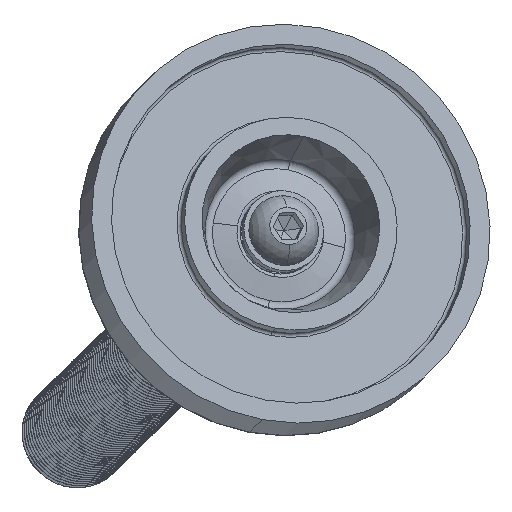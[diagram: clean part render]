
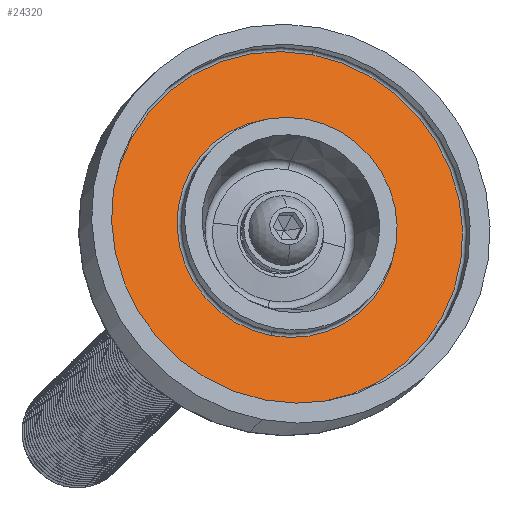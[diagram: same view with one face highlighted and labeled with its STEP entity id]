
A CAD part, front view. The second image highlights one B-rep face of the part: STEP entity #24320.
In plain terms, the highlighted planar face has unit normal (0.206, -0.958, 0.201) as drawn and (-1, 0, 0) by its records, which use the part's own axes.
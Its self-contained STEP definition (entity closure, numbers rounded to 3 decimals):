
#245 = ORIENTED_EDGE ( 'NONE', *, *, #20538, .T. ) ;
#246 = ORIENTED_EDGE ( 'NONE', *, *, #18792, .T. ) ;
#247 = ORIENTED_EDGE ( 'NONE', *, *, #20539, .F. ) ;
#248 = ORIENTED_EDGE ( 'NONE', *, *, #20536, .F. ) ;
#1284 = CIRCLE ( 'NONE', #2151, 16.5 ) ;
#2151 = AXIS2_PLACEMENT_3D ( 'NONE', #3371, #3372, #3373 ) ;
#2959 = AXIS2_PLACEMENT_3D ( 'NONE', #7689, #7690, #7691 ) ;
#2961 = AXIS2_PLACEMENT_3D ( 'NONE', #7695, #7696, #7697 ) ;
#2962 = AXIS2_PLACEMENT_3D ( 'NONE', #7698, #7699, #7700 ) ;
#3371 = CARTESIAN_POINT ( 'NONE',  ( 34.237, 55.379, 0. ) ) ;
#3372 = DIRECTION ( 'NONE',  ( 1., 0., 0. ) ) ;
#3373 = DIRECTION ( 'NONE',  ( 0., 0., -1. ) ) ;
#5594 = CIRCLE ( 'NONE', #2959, 26.5 ) ;
#5596 = CIRCLE ( 'NONE', #2961, 16.5 ) ;
#5599 = CIRCLE ( 'NONE', #2962, 26.5 ) ;
#7689 = CARTESIAN_POINT ( 'NONE',  ( 34.237, 55.379, 0. ) ) ;
#7690 = DIRECTION ( 'NONE',  ( 1., 0., 0. ) ) ;
#7691 = DIRECTION ( 'NONE',  ( 0., 0., -1. ) ) ;
#7695 = CARTESIAN_POINT ( 'NONE',  ( 34.237, 55.379, 0. ) ) ;
#7696 = DIRECTION ( 'NONE',  ( 1., 0., 0. ) ) ;
#7697 = DIRECTION ( 'NONE',  ( 0., 0., -1. ) ) ;
#7698 = CARTESIAN_POINT ( 'NONE',  ( 34.237, 55.379, 0. ) ) ;
#7699 = DIRECTION ( 'NONE',  ( 1., 0., 0. ) ) ;
#7700 = DIRECTION ( 'NONE',  ( 0., 0., -1. ) ) ;
#8755 = AXIS2_PLACEMENT_3D ( 'NONE', #15659, #15670, #15671 ) ;
#9059 = CARTESIAN_POINT ( 'NONE',  ( 34.237, 55.379, -26.5 ) ) ;
#9187 = CARTESIAN_POINT ( 'NONE',  ( 34.237, 55.379, 16.5 ) ) ;
#9307 = CARTESIAN_POINT ( 'NONE',  ( 34.237, 55.379, 26.5 ) ) ;
#9310 = CARTESIAN_POINT ( 'NONE',  ( 34.237, 55.379, -16.5 ) ) ;
#14517 = FACE_OUTER_BOUND ( 'NONE', #17518, .T. ) ;
#14527 = FACE_BOUND ( 'NONE', #17516, .T. ) ;
#15659 = CARTESIAN_POINT ( 'NONE',  ( 34.237, 66.615, 0. ) ) ;
#15666 = PLANE ( 'NONE',  #8755 ) ;
#15670 = DIRECTION ( 'NONE',  ( -1., 0., 0. ) ) ;
#15671 = DIRECTION ( 'NONE',  ( 0., 0., 1. ) ) ;
#17516 = EDGE_LOOP ( 'NONE', ( #245, #246 ) ) ;
#17518 = EDGE_LOOP ( 'NONE', ( #247, #248 ) ) ;
#18792 = EDGE_CURVE ( 'NONE', #20899, #21022, #1284, .T. ) ;
#20536 = EDGE_CURVE ( 'NONE', #21019, #20771, #5594, .T. ) ;
#20538 = EDGE_CURVE ( 'NONE', #21022, #20899, #5596, .T. ) ;
#20539 = EDGE_CURVE ( 'NONE', #20771, #21019, #5599, .T. ) ;
#20771 = VERTEX_POINT ( 'NONE', #9059 ) ;
#20899 = VERTEX_POINT ( 'NONE', #9187 ) ;
#21019 = VERTEX_POINT ( 'NONE', #9307 ) ;
#21022 = VERTEX_POINT ( 'NONE', #9310 ) ;
#24320 = ADVANCED_FACE ( 'NONE', ( #14527, #14517 ), #15666, .T. ) ;
